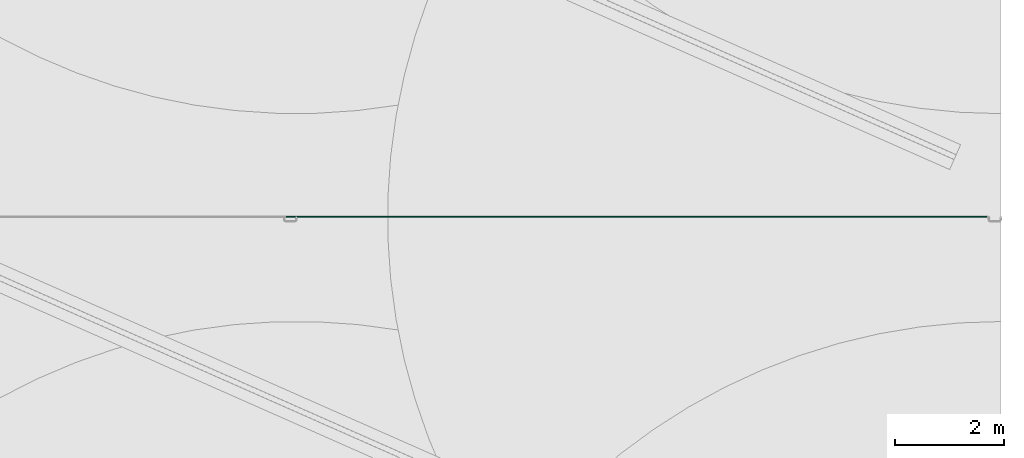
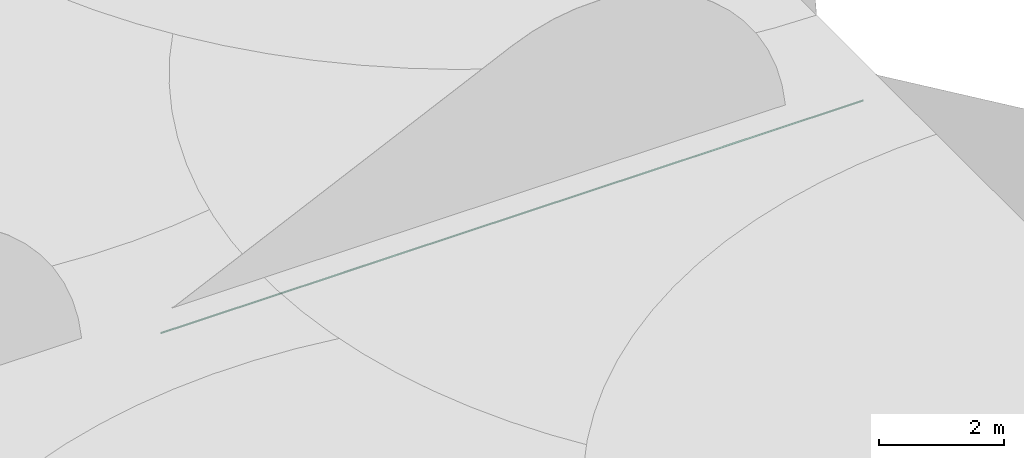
# One storey, part 41 of 166: 1 flow segment.
"""IFC2X3 building model written with IfcOpenShell, lengths in metres."""

from ifc_helpers import new_model, entity, si_unit, converted_unit, direction, frame, origin, origin_2d_with_axis, place, context, subcontext, project, spatial, circle, extrude, type_object, element, save


model = new_model("IFC2X3")

# Units and contexts
model_context = context("Model", 3, precision=1e-05, world=origin(), true_north=direction((6.123233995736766e-17, 1.0)))
body_context = subcontext(model_context, "Body", "Model", "MODEL_VIEW")
ifc_project = project(units=[si_unit("LENGTHUNIT", "METRE"), converted_unit("PLANEANGLEUNIT", "DEGREE", entity("IfcPlaneAngleMeasure", 0.017453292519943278), si_unit("PLANEANGLEUNIT", "RADIAN"), dimensions=[0, 0, 0, 0, 0, 0, 0]), si_unit("AREAUNIT", "SQUARE_METRE")], contexts=[model_context])

# Site, building, storey
site_placement = place(None, origin())
site = spatial("IfcSite", under=ifc_project, at=site_placement, Name="Default", CompositionType="ELEMENT")
building_placement = place(site_placement, origin())
building = spatial("IfcBuilding", under=site, at=building_placement, Name="CASA DE ACOLHIDA PARA IDOSOS", CompositionType="ELEMENT")
storey_placement = place(building_placement, frame((0.0, 0.0, -1.7499999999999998)))
storey = spatial("IfcBuildingStorey", under=building, at=storey_placement, Name="IMPLANTAÇÃO DRENAGEM", CompositionType="ELEMENT", Elevation=-1.7499999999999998)

# Flow segment
pipe_segment_type = type_object("IfcPipeSegmentType", Name="Tipos de tubos:AF_Tubo Marrom Soldável", PredefinedType="NOTDEFINED")
flow_segment_placement = place(storey_placement, origin())
element("IfcFlowSegment", 1, at=flow_segment_placement, inside=storey, type_object=pipe_segment_type, Name="Tipos de tubos:AF_Tubo Marrom Soldável", ObjectType="Tipos de tubos:AF_Tubo Marrom Soldável", context=body_context, shape_type="SweptSolid", body=[
    extrude(circle(Radius=0.0125, at=origin_2d_with_axis()), frame((33.02495110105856, 22.85494207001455, -0.19999999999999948), z_axis=(1.0, 0.0, 0.0), x_axis=(0.0, -1.0, 0.0)), (0.0, 0.0, 1.0), 12.9336),
])

save(model, "model.ifc")
